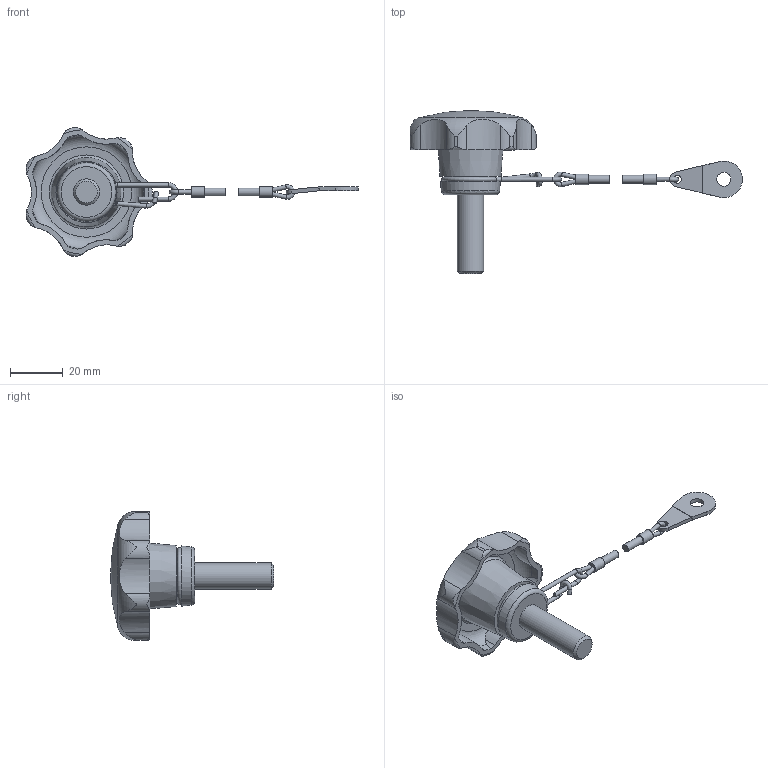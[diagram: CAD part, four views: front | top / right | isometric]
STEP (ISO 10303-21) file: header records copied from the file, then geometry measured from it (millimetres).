
FILE_DESCRIPTION( ( 'STEP AP203' ), '1' );
FILE_NAME( 'C:/Temp/Ganter_Step_05_03_2020/data/2_2/gn_6336_13/gn_6336_13_2/Star knob GN 6336.13-50-M10-30-H.stp', '2020-03-05T12:11:48', ( 'License CC BY-ND 4.0' ), ( 'CADENAS' ), ' ', 'PARTsolutions', ' ' );
FILE_SCHEMA( ( 'CONFIG_CONTROL_DESIGN' ) );
Length unit declared in the file: millimetre
Products named in the file (3): Star knob GN 6336.13-50-M10-30-H; _Star knob GN 6336.13-50-M10-30-H 6; _Star knob GN 111.2-200-14 h2
Assembly tree (2 placements, depth 2):
  Star knob GN 6336.13-50-M10-30-H
    _Star knob GN 6336.13-50-M10-30-H 6
    _Star knob GN 111.2-200-14 h2
Bounding box: 126.27 x 62 x 49 mm (x, y, z)
Volume: 25598.3 mm3; surface area: 10388.9 mm2
Topology: 2 solids, 2 shells, 133 faces, 361 edges, 233 vertices
Faces by surface type: cylinder 67, plane 34, torus 20, cone 11, sphere 1
Full cylindrical faces by diameter (mm): 1.6 x10, 3 x3, 4 x2, 5.3 x1, 10 x1, 18.5 x1
Entity records: 4840 total; most frequent: CARTESIAN_POINT 1623, DIRECTION 650, ORIENTED_EDGE 612, EDGE_CURVE 306, AXIS2_PLACEMENT_3D 280, VERTEX_POINT 221, EDGE_LOOP 184, FACE_OUTER_BOUND 163
